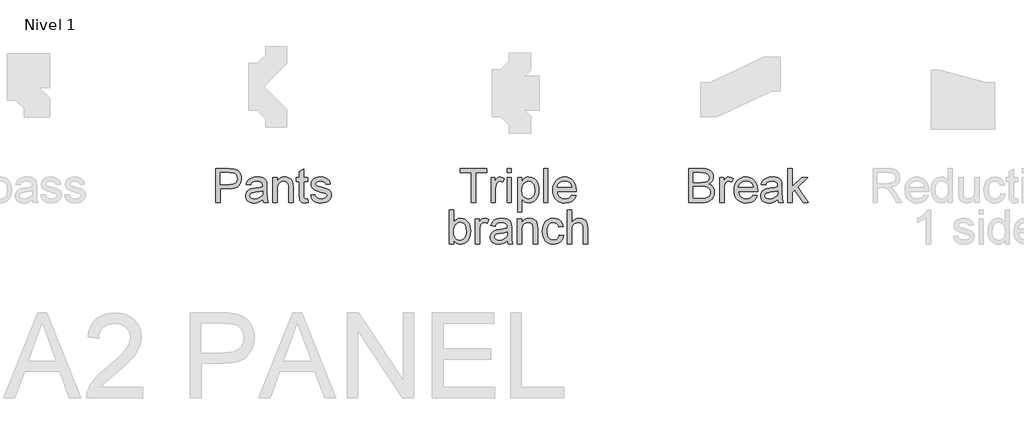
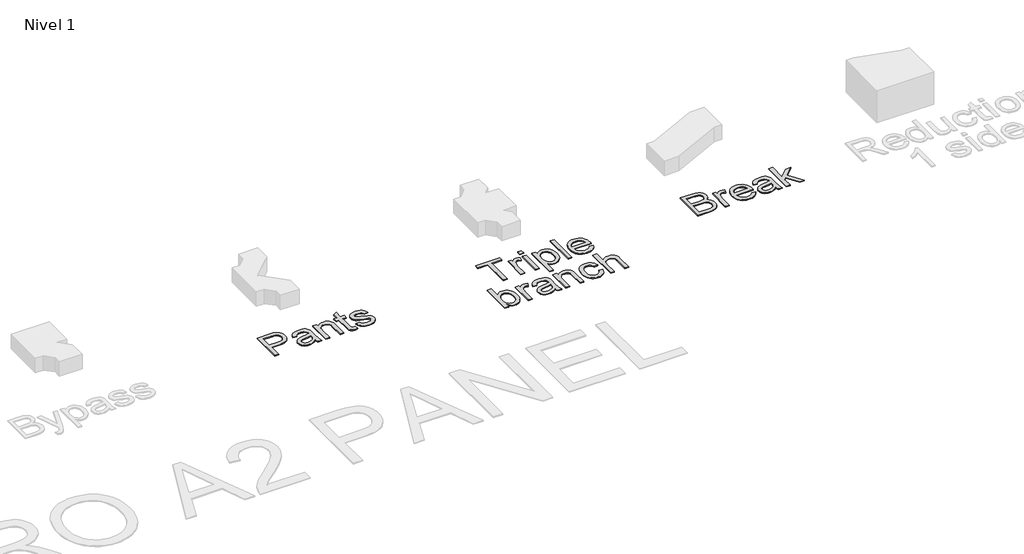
# One storey, part 4 of 6: 3 proxies.
"""IFC4 building model written with IfcOpenShell, lengths in millimetres."""

from ifc_helpers import new_model, si_unit, origin, origin_with_axes, place, context, project, spatial, polyline, outline, extrude, element, save

model = new_model("IFC4")

# Units and contexts
model_context = context("Model", 3, world=origin())
ifc_project = project(units=[si_unit("LENGTHUNIT", "METRE", prefix="MILLI")], contexts=[model_context])

# Site, building, storey
site = spatial("IfcSite", under=ifc_project)
building = spatial("IfcBuilding", under=site)
storey = spatial("IfcBuildingStorey", under=building, Name="Nivel 1", Elevation=0.0)

# Proxies
placement = place(None, origin())
element("IfcBuildingElementProxy", 1, Name="Texto de modelo 1", ObjectType="Texto de modelo 1", at=placement, inside=storey, context=model_context, shape_type="SweptSolid", body=[
    extrude(outline(polyline([(-2923.4257208, -1016.3248037), (-2923.4257208, -614.4995631), (-2774.5070891, -614.4995631), (-2714.4687475, -618.3255358), (-2687.699201, -625.4747093), (-2665.6630695, -637.1120431), (-2647.9188946, -653.7648347), (-2634.0252179, -675.9603818), (-2625.0488972, -702.1413171), (-2622.0567903, -730.7502736), (-2624.0770756, -755.4167613), (-2630.1379315, -778.1089491), (-2640.2393579, -798.8268368), (-2654.3813549, -817.5704244), (-2673.7963272, -833.1073074), (-2699.7166795, -844.2050809), (-2732.1424117, -850.863745), (-2771.0735238, -853.0832997), (-2873.1975657, -853.0832997), (-2873.1975657, -1016.3248037), (-2923.4257208, -1016.3248037)]), holes=[polyline([(-2873.1975657, -802.8551446), (-2768.1304679, -802.8551446), (-2723.592221, -798.244357), (-2706.9884803, -792.4808724), (-2694.1616614, -784.4119939), (-2684.5905981, -774.2523195), (-2677.7541244, -762.2164469), (-2672.2849454, -732.5161071), (-2675.5100442, -709.9526781), (-2685.1853407, -690.9209162), (-2700.1090869, -676.5980439), (-2719.0795352, -668.1612835), (-2769.3076902, -664.7277182), (-2873.1975657, -664.7277182), (-2873.1975657, -802.8551446)])]), origin_with_axes(), (0.0, 0.0, 1.0), 10.0),
    extrude(outline(polyline([(-2370.9160149, -978.6536874), (-2394.9141838, -999.2305537), (-2419.6235911, -1012.6950347), (-2445.6083227, -1020.126251), (-2473.4324643, -1022.6033231), (-2495.7966239, -1021.113401), (-2515.4077999, -1016.6436348), (-2532.2659923, -1009.1940244), (-2546.3712012, -998.7645698), (-2557.5088286, -986.0174587), (-2565.4642767, -971.6148785), (-2570.2375456, -955.5568295), (-2571.8286352, -937.8433114), (-2569.4251395, -917.0211905), (-2562.2146524, -898.1120559), (-2551.0923534, -881.9252481), (-2536.9534221, -869.2701075), (-2520.3374186, -859.7051756), (-2501.7839034, -852.7889941), (-2458.324777, -845.2351505), (-2406.9684505, -837.2888994), (-2371.2103205, -827.9692222), (-2370.9160149, -816.7856095), (-2374.3741057, -794.3693333), (-2384.748378, -779.7031044), (-2407.9494691, -768.8137973), (-2440.2740338, -765.1840283), (-2470.1951027, -767.5997868), (-2491.0908, -774.8470621), (-2505.340096, -788.2502294), (-2515.3219608, -809.133664), (-2565.5501158, -802.8551446), (-2556.8313126, -775.3866223), (-2543.8205527, -753.8042119), (-2525.3038256, -737.2985731), (-2500.0671207, -725.0603654), (-2469.2018213, -717.4819963), (-2433.7993106, -714.9558732), (-2399.8438025, -717.1876907), (-2372.9271032, -723.883143), (-2352.6322798, -733.9508469), (-2338.5423994, -746.2994192), (-2329.1981967, -761.566522), (-2323.1404065, -780.3898175), (-2320.6878599, -824.3394531), (-2320.6878599, -886.8303414), (-2318.1372114, -974.0919506), (-2308.1308211, -1016.3248037), (-2358.3589762, -1016.3248037), (-2366.4033291, -998.8626717), (-2370.9160149, -978.6536874)]), holes=[polyline([(-2370.9160149, -878.1973772), (-2404.6630566, -886.5605613), (-2451.9481557, -893.5993701), (-2495.1620274, -901.7418249), (-2506.4069538, -907.3091058), (-2514.7333496, -914.9855768), (-2519.8836975, -924.1826266), (-2521.6004802, -934.3116442), (-2517.8603465, -949.2476532), (-2506.6399457, -961.4858609), (-2488.1845323, -969.6528412), (-2462.7393609, -972.375168), (-2435.7613479, -969.3707984), (-2411.9225947, -960.3576895), (-2392.5965272, -947.0771495), (-2379.1565716, -931.2704864), (-2373.1968833, -914.9855768), (-2371.2103205, -892.4221477), (-2370.9160149, -878.1973772)])]), origin_with_axes(), (0.0, 0.0, 1.0), 10.0),
    extrude(outline(polyline([(-2251.6241466, -1016.3248037), (-2251.6241466, -721.2343926), (-2201.3959916, -721.2343926), (-2201.3959916, -762.4371761), (-2183.9461223, -741.6641061), (-2162.9891113, -726.826199), (-2138.5249586, -717.9234547), (-2110.5536642, -714.9558732), (-2085.7952059, -717.3471062), (-2063.1214123, -724.5208051), (-2044.2122777, -735.5817904), (-2030.7477967, -749.6348827), (-2021.6120605, -766.6432936), (-2015.6891604, -786.570235), (-2013.04041, -835.1306583), (-2013.04041, -1016.3248037), (-2063.2685651, -1016.3248037), (-2063.2685651, -841.899687), (-2064.7155676, -815.9272182), (-2069.0565752, -797.459542), (-2077.0641399, -784.2280529), (-2089.5108141, -773.9641453), (-2105.4646299, -767.3790576), (-2123.9936198, -765.1840283), (-2153.4119167, -770.1136471), (-2178.489206, -784.9025033), (-2188.5109247, -796.9751641), (-2195.6692952, -813.4746716), (-2199.9643175, -834.4010257), (-2201.3959916, -859.7542265), (-2201.3959916, -1016.3248037), (-2251.6241466, -1016.3248037)])), origin_with_axes(), (0.0, 0.0, 1.0), 10.0),
    extrude(outline(polyline([(-1837.2418673, -974.4353072), (-1830.9633479, -1017.7963317), (-1868.5363623, -1022.6033231), (-1892.6448957, -1020.5186584), (-1910.6220626, -1014.2646645), (-1923.3262541, -1004.6261562), (-1931.6158618, -992.3879485), (-1936.1775985, -971.3696239), (-1937.6981774, -935.3907648), (-1937.6981774, -771.4625477), (-1975.3692937, -771.4625477), (-1975.3692937, -721.2343926), (-1937.6981774, -721.2343926), (-1937.6981774, -649.521929), (-1887.4700223, -619.9932676), (-1887.4700223, -721.2343926), (-1837.2418673, -721.2343926), (-1837.2418673, -771.4625477), (-1887.4700223, -771.4625477), (-1887.4700223, -933.9192368), (-1884.821272, -959.8181292), (-1876.2373588, -968.9906536), (-1859.1185832, -972.375168), (-1837.2418673, -974.4353072)])), origin_with_axes(), (0.0, 0.0, 1.0), 10.0),
    extrude(outline(polyline([(-1805.8492703, -928.4255323), (-1755.6211153, -922.1470129), (-1747.6993896, -943.6313214), (-1732.3709732, -959.4257218), (-1709.537764, -969.1378064), (-1679.1016603, -972.375168), (-1649.0334385, -969.4075866), (-1627.8924865, -960.5048423), (-1615.3844987, -947.604447), (-1611.2151694, -932.6439125), (-1615.4090242, -919.8416191), (-1627.9905884, -910.0804835), (-1679.6902715, -895.7576111), (-1755.3268097, -871.1830939), (-1774.4689362, -858.8345216), (-1788.3380874, -842.4882982), (-1796.7625851, -823.1867562), (-1799.570751, -801.9722278), (-1797.3144081, -782.5112703), (-1790.5453793, -764.5463662), (-1779.8768015, -748.7887541), (-1765.9218111, -735.9496724), (-1733.9896539, -721.0872398), (-1713.1062194, -716.4887149), (-1690.7757822, -714.9558732), (-1658.0833356, -717.4206826), (-1629.6583201, -724.8151107), (-1606.8005855, -736.4156563), (-1590.8099814, -751.4988181), (-1580.21498, -771.1805048), (-1573.5440531, -796.5766252), (-1623.7722082, -802.8551446), (-1630.1120412, -787.0484816), (-1642.6568173, -775.1413677), (-1661.5291636, -767.6733632), (-1686.8517076, -765.1840283), (-1715.6936561, -767.5629986), (-1734.9216217, -774.6999093), (-1745.7373523, -785.0006051), (-1749.3425959, -796.8709308), (-1743.3583821, -811.4881088), (-1724.6209258, -822.5736196), (-1681.3580032, -833.2667229), (-1607.6344513, -856.9092725), (-1588.1612311, -868.2155124), (-1573.3969003, -883.6910817), (-1564.0894858, -903.3850312), (-1560.9870144, -927.3464118), (-1564.6290461, -952.1171328), (-1575.5551414, -975.4163258), (-1593.3483672, -995.4168436), (-1617.5917907, -1010.291539), (-1646.8751975, -1019.5253771), (-1679.7883733, -1022.6033231), (-1706.8215686, -1021.1195324), (-1730.4334613, -1016.6681602), (-1750.6240515, -1009.2492067), (-1767.3933391, -998.8626717), (-1781.0908121, -985.5576062), (-1792.0659583, -969.3830611), (-1800.3187777, -950.3390365), (-1805.8492703, -928.4255323)])), origin_with_axes(), (0.0, 0.0, 1.0), 10.0),
])
element("IfcBuildingElementProxy", 2, Name="Texto de modelo 1", ObjectType="Texto de modelo 1", at=placement, inside=storey, context=model_context, shape_type="SweptSolid", body=[
    extrude(outline(polyline([(2660.8779808, -1016.3248037), (2660.8779808, -614.4995631), (2814.2111964, -614.4995631), (2856.3827358, -617.4548818), (2889.3081743, -626.3208379), (2914.5448792, -641.3181605), (2933.6502175, -662.667579), (2945.6799587, -687.7816565), (2949.6898725, -714.0729565), (2946.3176208, -738.267329), (2936.200866, -761.014699), (2919.2660315, -780.917115), (2895.4395409, -796.5766252), (2923.9013446, -811.4390578), (2944.931932, -834.0515378), (2957.9181664, -862.9180117), (2962.2469112, -896.5424261), (2959.2915925, -924.5627714), (2950.4256365, -950.547503), (2937.1941474, -972.6449481), (2921.1422296, -989.0034342), (2901.4850684, -1000.8492344), (2877.4378486, -1009.4086222), (2848.2157555, -1014.5957583), (2813.033974, -1016.3248037), (2660.8779808, -1016.3248037)]), holes=[polyline([(2711.1061359, -777.7410671), (2802.83138, -777.7410671), (2856.3949985, -773.424585), (2875.1447175, -765.981106), (2888.6214613, -754.8342815), (2896.7516534, -740.1557899), (2899.4617174, -722.1173094), (2896.9355944, -704.6061264), (2889.3572253, -689.3512864), (2877.0699666, -677.4441725), (2860.417175, -669.976168), (2834.861639, -666.0398306), (2795.8661475, -664.7277182), (2711.1061359, -664.7277182), (2711.1061359, -777.7410671)]), polyline([(2711.1061359, -966.0966486), (2814.1130945, -966.0966486), (2851.3918034, -964.1346113), (2882.9315531, -953.1962533), (2894.5075732, -943.7662115), (2903.8272504, -930.8780789), (2909.9708797, -915.1082041), (2912.0187562, -897.0329354), (2909.6152605, -876.0391362), (2902.4047734, -857.988393), (2889.8109464, -843.8739871), (2871.2574311, -834.6891999), (2844.9783939, -829.6492166), (2809.2080012, -827.9692222), (2711.1061359, -827.9692222), (2711.1061359, -966.0966486)])]), origin_with_axes(), (0.0, 0.0, 1.0), 10.0),
    extrude(outline(polyline([(3025.0321051, -1016.3248037), (3025.0321051, -721.2343926), (3068.9817408, -721.2343926), (3068.9817408, -764.8897227), (3085.2175995, -739.5794415), (3100.178134, -724.6679579), (3115.1877194, -717.3838944), (3131.5707309, -714.9558732), (3156.5867066, -718.8308969), (3181.9950897, -730.455968), (3165.2196707, -775.4847242), (3147.5613349, -767.7592023), (3129.9029992, -765.1840283), (3114.9056765, -767.6611004), (3101.5025091, -775.0923167), (3090.6745157, -786.9135915), (3083.402715, -802.560839), (3077.2958739, -830.6179725), (3075.2602602, -861.2257545), (3075.2602602, -1016.3248037), (3025.0321051, -1016.3248037)])), origin_with_axes(), (0.0, 0.0, 1.0), 10.0),
    extrude(outline(polyline([(3419.9902151, -928.4255323), (3469.2373515, -934.7040517), (3461.6865736, -954.428658), (3451.4931766, -971.8110823), (3438.6571607, -986.8513245), (3423.1785257, -999.5493847), (3405.2166873, -1009.6354827), (3384.931061, -1016.8398385), (3337.3884444, -1022.6033231), (3306.2227081, -1020.1170539), (3278.4537488, -1012.6582465), (3254.0815666, -1000.2269007), (3233.1061615, -982.8230167), (3216.2387721, -960.9309723), (3204.1906367, -935.0351455), (3196.9617555, -905.1355363), (3194.5521285, -871.2321448), (3196.986281, -836.179122), (3204.2887386, -805.2831658), (3216.4595013, -778.5442761), (3233.498569, -755.962453), (3254.4187918, -738.0220743), (3278.2330196, -725.2075182), (3304.9412525, -717.5187845), (3334.5434904, -714.9558732), (3363.1923007, -717.5126531), (3389.1003902, -725.1829927), (3412.2677589, -737.966892), (3432.6944067, -755.8643511), (3449.3686581, -778.3971233), (3461.2788377, -805.0869621), (3468.4249454, -835.9338674), (3470.8069814, -870.9378392), (3470.5126758, -884.4758966), (3244.7802835, -884.4758966), (3247.689617, -904.519334), (3253.4745613, -922.0734365), (3262.1351167, -937.1382042), (3273.6712829, -949.7136371), (3287.4453979, -959.6280569), (3302.8197996, -966.7097853), (3338.3694631, -972.375168), (3365.1022214, -969.7509431), (3387.6165995, -961.8782684), (3405.9125974, -948.2666346), (3419.9902151, -928.4255323)]), holes=[polyline([(3244.7802835, -834.2477415), (3420.5788263, -834.2477415), (3413.7852721, -807.711187), (3400.4679439, -788.728476), (3386.7704709, -778.4277801), (3371.1845371, -771.0701402), (3353.7101423, -766.6555563), (3334.3472866, -765.1840283), (3300.4898803, -769.8806551), (3272.4940605, -783.9705355), (3253.033103, -805.9330907), (3244.7802835, -834.2477415)])]), origin_with_axes(), (0.0, 0.0, 1.0), 10.0),
    extrude(outline(polyline([(3709.390718, -978.6536874), (3685.3925492, -999.2305537), (3660.6831418, -1012.6950347), (3634.6984102, -1020.126251), (3606.8742686, -1022.6033231), (3584.510109, -1021.113401), (3564.898933, -1016.6436348), (3548.0407406, -1009.1940244), (3533.9355317, -998.7645698), (3522.7979043, -986.0174587), (3514.8424562, -971.6148785), (3510.0691873, -955.5568295), (3508.4780977, -937.8433114), (3510.8815934, -917.0211905), (3518.0920805, -898.1120559), (3529.2143795, -881.9252481), (3543.3533108, -869.2701075), (3559.9693143, -859.7051756), (3578.5228296, -852.7889941), (3621.9819559, -845.2351505), (3673.3382824, -837.2888994), (3709.0964124, -827.9692222), (3709.390718, -816.7856095), (3705.9326272, -794.3693333), (3695.558355, -779.7031044), (3672.3572638, -768.8137973), (3640.0326991, -765.1840283), (3610.1116302, -767.5997868), (3589.2159329, -774.8470621), (3574.9666369, -788.2502294), (3564.9847721, -809.133664), (3514.7566171, -802.8551446), (3523.4754203, -775.3866223), (3536.4861802, -753.8042119), (3555.0029073, -737.2985731), (3580.2396122, -725.0603654), (3611.1049116, -717.4819963), (3646.5074223, -714.9558732), (3680.4629304, -717.1876907), (3707.3796297, -723.883143), (3727.6744531, -733.9508469), (3741.7643335, -746.2994192), (3751.1085362, -761.566522), (3757.1663264, -780.3898175), (3759.618873, -824.3394531), (3759.618873, -886.8303414), (3762.1695215, -974.0919506), (3772.1759118, -1016.3248037), (3721.9477567, -1016.3248037), (3713.9034038, -998.8626717), (3709.390718, -978.6536874)]), holes=[polyline([(3709.390718, -878.1973772), (3675.6436763, -886.5605613), (3628.3585772, -893.5993701), (3585.1447055, -901.7418249), (3573.8997791, -907.3091058), (3565.5733833, -914.9855768), (3560.4230354, -924.1826266), (3558.7062527, -934.3116442), (3562.4463864, -949.2476532), (3573.6667872, -961.4858609), (3592.1222006, -969.6528412), (3617.567372, -972.375168), (3644.545385, -969.3707984), (3668.3841382, -960.3576895), (3687.7102057, -947.0771495), (3701.1501613, -931.2704864), (3707.1098496, -914.9855768), (3709.0964124, -892.4221477), (3709.390718, -878.1973772)])]), origin_with_axes(), (0.0, 0.0, 1.0), 10.0),
    extrude(outline(polyline([(3828.6825863, -1016.3248037), (3828.6825863, -614.4995631), (3878.9107413, -614.4995631), (3878.9107413, -830.4217688), (3991.5316828, -721.2343926), (4060.9878035, -721.2343926), (3946.9934359, -831.7951949), (4067.2663229, -1016.3248037), (4008.6014074, -1016.3248037), (3910.9900513, -866.719459), (3878.9107413, -897.8177503), (3878.9107413, -1016.3248037), (3828.6825863, -1016.3248037)])), origin_with_axes(), (0.0, 0.0, 1.0), 10.0),
])
element("IfcBuildingElementProxy", 3, Name="Texto de modelo 1", ObjectType="Texto de modelo 1", at=placement, inside=storey, context=model_context, shape_type="SweptSolid", body=[
    extrude(outline(polyline([(92.7268879, -1016.3248037), (92.7268879, -664.7277182), (-39.1220192, -664.7277182), (-39.1220192, -614.4995631), (274.80395, -614.4995631), (274.80395, -664.7277182), (142.9550429, -664.7277182), (142.9550429, -1016.3248037), (92.7268879, -1016.3248037)])), origin_with_axes(), (0.0, 0.0, 1.0), 10.0),
    extrude(outline(polyline([(325.0321051, -1016.3248037), (325.0321051, -721.2343926), (368.9817408, -721.2343926), (368.9817408, -764.8897227), (385.2175995, -739.5794415), (400.178134, -724.6679579), (415.1877194, -717.3838944), (431.5707309, -714.9558732), (456.5867066, -718.8308969), (481.9950897, -730.455968), (465.2196707, -775.4847242), (447.5613349, -767.7592023), (429.9029992, -765.1840283), (414.9056765, -767.6611004), (401.5025091, -775.0923167), (390.6745157, -786.9135915), (383.402715, -802.560839), (377.2958739, -830.6179725), (375.2602602, -861.2257545), (375.2602602, -1016.3248037), (325.0321051, -1016.3248037)])), origin_with_axes(), (0.0, 0.0, 1.0), 10.0),
    extrude(outline(polyline([(513.3876866, -664.7277182), (513.3876866, -614.4995631), (563.6158417, -614.4995631), (563.6158417, -664.7277182), (513.3876866, -664.7277182)])), origin_with_axes(), (0.0, 0.0, 1.0), 10.0),
    extrude(outline(polyline([(513.3876866, -1016.3248037), (513.3876866, -721.2343926), (563.6158417, -721.2343926), (563.6158417, -1016.3248037), (513.3876866, -1016.3248037)])), origin_with_axes(), (0.0, 0.0, 1.0), 10.0),
    extrude(outline(polyline([(638.9580743, -1129.3381526), (638.9580743, -721.2343926), (689.1862294, -721.2343926), (689.1862294, -770.4815291), (705.5692409, -746.1890546), (723.9142897, -728.8372872), (745.3004964, -718.4262267), (770.8069814, -714.9558732), (804.7747523, -719.8119156), (834.475092, -734.3800426), (858.6572018, -757.7773375), (876.0702829, -789.1208835), (886.591708, -826.1298122), (890.0988497, -866.5232553), (886.1379869, -909.4796096), (874.2553984, -947.8987526), (854.8312291, -979.8309098), (828.2456235, -1003.3263065), (797.2822223, -1017.7840689), (764.7246657, -1022.6033231), (741.6339391, -1019.3782243), (721.0202847, -1009.7029278), (703.3742116, -995.0980126), (689.1862294, -977.0840575), (689.1862294, -1129.3381526), (638.9580743, -1129.3381526)]), holes=[polyline([(689.1862294, -871.1340429), (694.6186202, -916.1627991), (701.4091087, -933.6004057), (710.9157926, -947.6534979), (734.9630123, -966.1947505), (748.7248646, -970.8300636), (763.6455452, -972.375168), (778.7808236, -970.7748813), (792.7940619, -965.9740213), (805.6852602, -957.9725879), (817.4544184, -946.7705811), (827.2615392, -932.2085855), (834.2666255, -914.1271854), (838.4696773, -892.526381), (839.8706946, -867.406172), (834.4015156, -822.6226705), (827.5650419, -805.0501739), (817.9939786, -790.6905133), (793.9835471, -771.5606496), (780.3780446, -766.7781836), (765.7056844, -765.1840283), (751.0793094, -766.8793512), (737.3174571, -771.9653198), (712.3873205, -792.3091941), (702.2368431, -807.4076843), (694.9865022, -825.5779892), (690.6362976, -846.8201087), (689.1862294, -871.1340429)])]), origin_with_axes(), (0.0, 0.0, 1.0), 10.0),
    extrude(outline(polyline([(946.6055241, -1016.3248037), (946.6055241, -614.4995631), (996.8336792, -614.4995631), (996.8336792, -1016.3248037), (946.6055241, -1016.3248037)])), origin_with_axes(), (0.0, 0.0, 1.0), 10.0),
    extrude(outline(polyline([(1278.7784403, -928.4255323), (1328.0255767, -934.7040517), (1320.4747988, -954.428658), (1310.2814018, -971.8110823), (1297.4453859, -986.8513245), (1281.9667509, -999.5493847), (1264.0049125, -1009.6354827), (1243.7192862, -1016.8398385), (1196.1766697, -1022.6033231), (1165.0109333, -1020.1170539), (1137.241974, -1012.6582465), (1112.8697918, -1000.2269007), (1091.8943868, -982.8230167), (1075.0269973, -960.9309723), (1062.9788619, -935.0351455), (1055.7499807, -905.1355363), (1053.3403537, -871.2321448), (1055.7745062, -836.179122), (1063.0769638, -805.2831658), (1075.2477265, -778.5442761), (1092.2867942, -755.962453), (1113.207017, -738.0220743), (1137.0212448, -725.2075182), (1163.7294777, -717.5187845), (1193.3317156, -714.9558732), (1221.9805259, -717.5126531), (1247.8886154, -725.1829927), (1271.0559841, -737.966892), (1291.4826319, -755.8643511), (1308.1568833, -778.3971233), (1320.0670629, -805.0869621), (1327.2131707, -835.9338674), (1329.5952066, -870.9378392), (1329.300901, -884.4758966), (1103.5685087, -884.4758966), (1106.4778422, -904.519334), (1112.2627866, -922.0734365), (1120.9233419, -937.1382042), (1132.4595081, -949.7136371), (1146.2336231, -959.6280569), (1161.6080248, -966.7097853), (1197.1576883, -972.375168), (1223.8904466, -969.7509431), (1246.4048247, -961.8782684), (1264.7008226, -948.2666346), (1278.7784403, -928.4255323)]), holes=[polyline([(1103.5685087, -834.2477415), (1279.3670515, -834.2477415), (1272.5734973, -807.711187), (1259.2561691, -788.728476), (1245.5586961, -778.4277801), (1229.9727623, -771.0701402), (1212.4983675, -766.6555563), (1193.1355118, -765.1840283), (1159.2781055, -769.8806551), (1131.2822857, -783.9705355), (1111.8213282, -805.9330907), (1103.5685087, -834.2477415)])]), origin_with_axes(), (0.0, 0.0, 1.0), 10.0),
    extrude(outline(polyline([(-117.6035115, -1504.2240751), (-167.8316666, -1504.2240751), (-167.8316666, -1102.3988345), (-117.6035115, -1102.3988345), (-117.6035115, -1251.415568), (-101.0856099, -1230.1703828), (-82.4339928, -1214.9952505), (-61.6486601, -1205.8901711), (-38.7296118, -1202.8551446), (-12.8552448, -1205.5897341), (11.5966452, -1213.7935026), (33.2281065, -1226.9514153), (50.6411876, -1244.5484374), (64.2896096, -1266.4128907), (74.6270937, -1292.3730968), (81.138605, -1321.3499353), (83.3091088, -1352.2642856), (81.0619629, -1387.9365764), (74.3205254, -1419.3169106), (63.0847961, -1446.4052882), (47.3547751, -1469.2017091), (28.4732317, -1487.2708465), (7.7829352, -1500.1773731), (-14.7161145, -1507.9212891), (-39.0239174, -1510.5025945), (-62.6971237, -1507.1732624), (-83.6847916, -1497.1852662), (-101.9869208, -1480.538606), (-117.6035115, -1457.2332816), (-117.6035115, -1504.2240751)]), holes=[polyline([(-117.6035115, -1354.6187304), (-114.1699462, -1396.5082269), (-103.8692504, -1424.859666), (-91.6984877, -1440.3536293), (-77.553425, -1451.420746), (-61.4340622, -1458.061016), (-43.3403994, -1460.2744394), (-28.3185513, -1458.6434959), (-14.3512982, -1453.7506653), (-1.4386402, -1445.5959478), (10.4194228, -1434.1793432), (20.3338426, -1419.5315084), (27.415571, -1401.6831003), (31.664608, -1380.6341188), (33.0809537, -1356.3845639), (27.6485629, -1310.42384), (20.8580744, -1292.6306142), (11.3513905, -1278.2954791), (-0.0805425, -1267.2651506), (-12.6467783, -1259.3863446), (-26.3473169, -1254.6590609), (-41.1821584, -1253.0832997), (-56.2040065, -1254.7142432), (-70.1712596, -1259.6070737), (-83.0839176, -1267.7617913), (-94.9419806, -1279.1783959), (-104.8564004, -1293.6790779), (-111.9381288, -1311.0860276), (-116.1871658, -1331.3992451), (-117.6035115, -1354.6187304)])]), origin_with_axes(), (0.0, 0.0, 1.0), 10.0),
    extrude(outline(polyline([(139.8157832, -1504.2240751), (139.8157832, -1209.133664), (183.7654189, -1209.133664), (183.7654189, -1252.7889941), (200.0012776, -1227.4787128), (214.9618121, -1212.5672293), (229.9713975, -1205.2831658), (246.354409, -1202.8551446), (271.3703847, -1206.7301683), (296.7787678, -1218.3552394), (280.0033489, -1263.3839956), (262.3450131, -1255.6584737), (244.6866773, -1253.0832997), (229.6893547, -1255.5603718), (216.2861873, -1262.9915881), (205.4581939, -1274.8128629), (198.1863931, -1290.4601104), (192.079552, -1318.5172439), (190.0439383, -1349.1250259), (190.0439383, -1504.2240751), (139.8157832, -1504.2240751)])), origin_with_axes(), (0.0, 0.0, 1.0), 10.0),
    extrude(outline(polyline([(516.5269463, -1466.5529588), (492.5287775, -1487.129825), (467.8193701, -1500.5943061), (441.8346385, -1508.0255224), (414.010497, -1510.5025945), (391.6463374, -1509.0126724), (372.0351613, -1504.5429061), (355.1769689, -1497.0932957), (341.0717601, -1486.6638412), (329.9341327, -1473.91673), (321.9786845, -1459.5141499), (317.2054156, -1443.4561008), (315.614326, -1425.7425828), (318.0178217, -1404.9204618), (325.2283088, -1386.0113273), (336.3506078, -1369.8245195), (350.4895391, -1357.1693789), (367.1055426, -1347.604447), (385.6590579, -1340.6882655), (429.1181842, -1333.1344219), (480.4745108, -1325.1881708), (516.2326407, -1315.8684935), (516.5269463, -1304.6848809), (513.0688555, -1282.2686047), (502.6945833, -1267.6023758), (479.4934921, -1256.7130687), (447.1689275, -1253.0832997), (417.2478585, -1255.4990581), (396.3521612, -1262.7463334), (382.1028653, -1276.1495008), (372.1210005, -1297.0329354), (321.8928454, -1290.754416), (330.6116487, -1263.2858937), (343.6224086, -1241.7034833), (362.1391357, -1225.1978445), (387.3758405, -1212.9596368), (418.2411399, -1205.3812677), (453.6436506, -1202.8551446), (487.5991587, -1205.0869621), (514.5158581, -1211.7824144), (534.8106815, -1221.8501183), (548.9005619, -1234.1986906), (558.2447646, -1249.4657934), (564.3025547, -1268.2890888), (566.7551014, -1312.2387245), (566.7551014, -1374.7296128), (569.3057499, -1461.991222), (579.3121401, -1504.2240751), (529.0839851, -1504.2240751), (521.0396321, -1486.761943), (516.5269463, -1466.5529588)]), holes=[polyline([(516.5269463, -1366.0966486), (482.7799046, -1374.4598326), (435.4948055, -1381.4986415), (392.2809338, -1389.6410963), (381.0360075, -1395.2083772), (372.7096117, -1402.8848481), (367.5592637, -1412.081898), (365.8424811, -1422.2109156), (369.5826147, -1437.1469246), (380.8030155, -1449.3851323), (399.258429, -1457.5521126), (424.7036003, -1460.2744394), (451.6816133, -1457.2700698), (475.5203666, -1448.2569609), (494.846434, -1434.9764209), (508.2863896, -1419.1697578), (514.2460779, -1402.8848481), (516.2326407, -1380.3214191), (516.5269463, -1366.0966486)])]), origin_with_axes(), (0.0, 0.0, 1.0), 10.0),
    extrude(outline(polyline([(635.8188146, -1504.2240751), (635.8188146, -1209.133664), (686.0469697, -1209.133664), (686.0469697, -1250.3364475), (703.496839, -1229.5633775), (724.45385, -1214.7254703), (748.9180027, -1205.8227261), (776.889297, -1202.8551446), (801.6477553, -1205.2463776), (824.3215489, -1212.4200765), (843.2306835, -1223.4810618), (856.6951645, -1237.534154), (865.8309007, -1254.5425649), (871.7538008, -1274.4695064), (874.4025512, -1323.0299297), (874.4025512, -1504.2240751), (824.1743961, -1504.2240751), (824.1743961, -1329.7989584), (822.7273936, -1303.8264896), (818.3863861, -1285.3588134), (810.3788213, -1272.1273243), (797.9321471, -1261.8634167), (781.9783313, -1255.2783289), (763.4493415, -1253.0832997), (734.0310446, -1258.0129184), (708.9537552, -1272.8017746), (698.9320366, -1284.8744355), (691.7736661, -1301.3739429), (687.4786438, -1322.3002971), (686.0469697, -1347.6534979), (686.0469697, -1504.2240751), (635.8188146, -1504.2240751)])), origin_with_axes(), (0.0, 0.0, 1.0), 10.0),
    extrude(outline(polyline([(1131.821846, -1397.4892455), (1182.050001, -1403.7677649), (1176.5869534, -1427.4685625), (1168.0459598, -1448.4409019), (1156.4270201, -1466.6847832), (1141.7301344, -1482.2002063), (1124.5745707, -1494.5825011), (1105.579597, -1503.4269974), (1084.7452133, -1508.7336952), (1062.0714197, -1510.5025945), (1033.9008559, -1508.0347194), (1008.6426912, -1500.6310943), (986.2969257, -1488.291719), (966.8635593, -1471.0165936), (951.1335384, -1449.1306806), (939.8978091, -1422.9589423), (933.1563715, -1392.5013788), (930.9092257, -1357.7579901), (934.7474611, -1313.0603276), (946.2621676, -1274.3223536), (965.637286, -1243.0401212), (993.0567574, -1220.7096841), (1025.8595686, -1207.3187795), (1061.3847066, -1202.8551446), (1083.6691585, -1204.3879863), (1103.8260261, -1208.9865112), (1121.8553096, -1216.6507194), (1137.7570088, -1227.380611), (1151.2613437, -1240.9309311), (1162.0985342, -1257.0564252), (1170.2685801, -1275.7570933), (1175.7714817, -1297.0329354), (1125.5433266, -1303.3114548), (1116.4321158, -1281.3979506), (1102.2441336, -1265.6893894), (1083.7641947, -1256.2348221), (1061.7771141, -1253.0832997), (1044.7104552, -1254.6345354), (1029.3176594, -1259.2882427), (1015.5987266, -1267.0444214), (1003.553657, -1277.9030716), (993.7465361, -1292.1155794), (986.7414498, -1309.9333307), (982.538398, -1331.3563255), (981.1373807, -1356.3845639), (986.6188225, -1403.4611966), (993.4706246, -1421.3985095), (1003.0631477, -1435.6018202), (1014.869094, -1446.3960911), (1028.3611662, -1454.1062846), (1043.5393642, -1458.7324007), (1060.403688, -1460.2744394), (1086.412945, -1456.4239412), (1107.737838, -1444.8724465), (1123.2501955, -1425.3256498), (1131.821846, -1397.4892455)])), origin_with_axes(), (0.0, 0.0, 1.0), 10.0),
    extrude(outline(polyline([(1225.9996367, -1504.2240751), (1225.9996367, -1102.3988345), (1276.2277918, -1102.3988345), (1276.2277918, -1250.1402437), (1294.6770739, -1229.4530129), (1315.3949616, -1214.6764194), (1338.3814549, -1205.8104633), (1363.6365539, -1202.8551446), (1393.9745557, -1206.0802435), (1420.0451265, -1215.7555399), (1440.5729418, -1231.1207446), (1454.2826775, -1251.415568), (1462.0081994, -1279.3010232), (1464.5833733, -1317.4381234), (1464.5833733, -1504.2240751), (1414.3552183, -1504.2240751), (1414.3552183, -1322.6375223), (1410.3575672, -1291.1958744), (1398.3646142, -1269.662515), (1379.0385467, -1257.2281035), (1353.0415524, -1253.0832997), (1331.8147613, -1255.8792029), (1311.8878199, -1264.2669124), (1295.382181, -1277.4370878), (1284.4192976, -1294.5803888), (1278.2756682, -1317.364547), (1276.2277918, -1347.4572942), (1276.2277918, -1504.2240751), (1225.9996367, -1504.2240751)])), origin_with_axes(), (0.0, 0.0, 1.0), 10.0),
])

save(model, "model.ifc")
